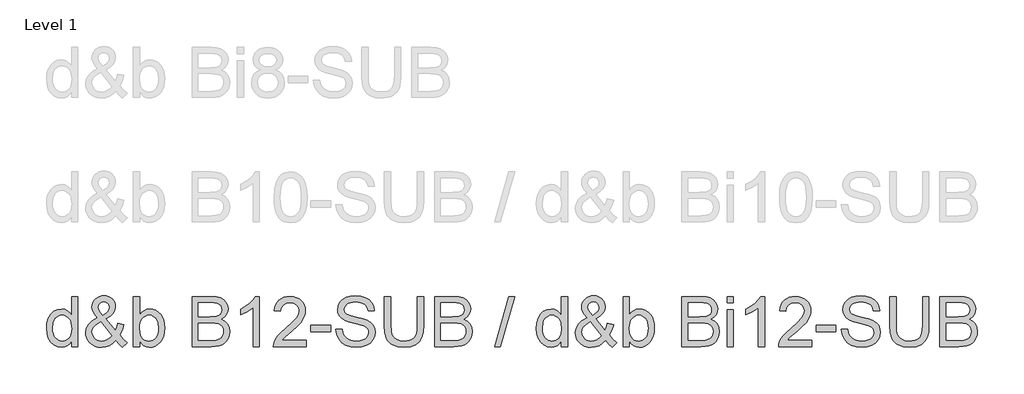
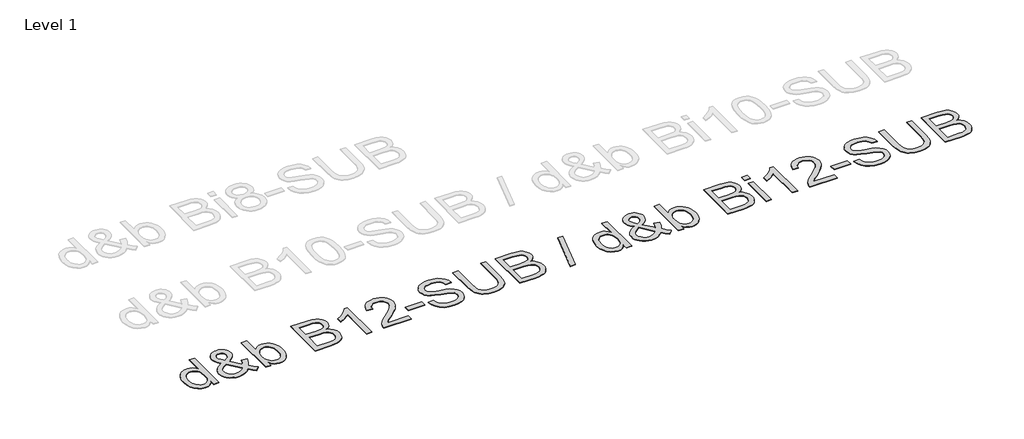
# One storey, part 3 of 55: 1 proxy.
"""IFC4 building model written with IfcOpenShell, lengths in millimetres."""

from ifc_helpers import new_model, si_unit, origin, origin_with_axes, place, context, project, spatial, polyline, outline, extrude, element, save

model = new_model("IFC4")

# Units and contexts
model_context = context("Model", 3, world=origin())
ifc_project = project(units=[si_unit("LENGTHUNIT", "METRE", prefix="MILLI")], contexts=[model_context])

# Site, building, storey
site = spatial("IfcSite", under=ifc_project)
building = spatial("IfcBuilding", under=site)
storey = spatial("IfcBuildingStorey", under=building, Name="Level 1", Elevation=0.0)

# Proxy
placement = place(None, origin())
element("IfcBuildingElementProxy", 1, Name="400mm Arial", ObjectType="400mm Arial", at=placement, inside=storey, context=model_context, shape_type="SweptSolid", body=[
    extrude(outline(polyline([(-20879.8211974, -38148.6945164), (-20879.8211974, -38101.3113154), (-20894.8491769, -38124.7883181), (-20913.0532043, -38141.5576057), (-20934.4332796, -38151.6191783), (-20958.9894028, -38154.9730358), (-20991.4611202, -38150.1169935), (-21021.1859854, -38135.5488665), (-21046.3491139, -38112.2864616), (-21065.1356211, -38081.3475858), (-21076.8342686, -38043.9830379), (-21080.7338177, -38001.4436165), (-21077.1408369, -37959.4314926), (-21066.3618945, -37921.4905962), (-21048.4092531, -37889.7791682), (-21023.2951755, -37866.4554497), (-20992.9203855, -37852.1080519), (-20959.1856065, -37847.325586), (-20934.6110892, -37850.7468885), (-20912.8815261, -37861.0107962), (-20894.4629008, -37876.7438829), (-20879.8211974, -37896.5727224), (-20879.8211974, -37746.8692758), (-20829.5930424, -37746.8692758), (-20829.5930424, -38148.6945164), (-20879.8211974, -38148.6945164)]), holes=[polyline([(-21030.5056627, -38001.2474128), (-21029.089317, -38025.6042665), (-21024.8402799, -38046.6808392), (-21017.7585515, -38064.4771307), (-21007.8441318, -38078.9931411), (-20983.1469871, -38098.3069458), (-20969.2717046, -38103.135397), (-20954.3786151, -38104.7448807), (-20939.415015, -38103.2089734), (-20925.6225058, -38098.6012514), (-20901.5507606, -38080.1703635), (-20892.0440767, -38066.2613584), (-20885.2535882, -38049.1088603), (-20879.8211974, -38005.0733855), (-20885.3516901, -37956.9298951), (-20892.2648059, -37938.3947739), (-20901.9431681, -37923.5507354), (-20913.6448812, -37912.1770504), (-20926.6280499, -37904.0529896), (-20940.8926743, -37899.1785532), (-20956.4387543, -37897.5537411), (-20971.6261493, -37899.1141738), (-20985.5014319, -37903.7954722), (-20998.064602, -37911.5976362), (-21009.3156597, -37922.5206658), (-21018.586286, -37936.8036843), (-21025.2081619, -37954.6858149), (-21030.5056627, -38001.2474128)])]), origin_with_axes(), (0.0, 0.0, 1.0), 5.0),
    extrude(outline(polyline([(-20523.809528, -38099.0549725), (-20549.3405384, -38123.5191252), (-20577.0788409, -38140.99352), (-20607.0734862, -38151.4781569), (-20639.3735254, -38154.9730358), (-20668.6814577, -38152.3855991), (-20694.8010793, -38144.623289), (-20717.7323904, -38131.6861055), (-20737.4753908, -38113.5740486), (-20750.308341, -38096.2038871), (-20759.4747341, -38077.8404442), (-20764.9745699, -38058.4837198), (-20766.8078485, -38038.1337141), (-20760.9094739, -38002.9396699), (-20743.2143499, -37971.3263438), (-20713.796053, -37943.3182613), (-20672.7281596, -37918.9399477), (-20694.6416638, -37890.5885086), (-20707.7995765, -37868.1231814), (-20714.3846642, -37848.9442668), (-20716.5796934, -37830.4520651), (-20714.8506481, -37812.8979626), (-20709.6635119, -37796.5333452), (-20701.018285, -37781.3582129), (-20688.9149674, -37767.3725657), (-20674.1935562, -37755.6555241), (-20657.6940487, -37747.2862088), (-20639.4164449, -37742.2646195), (-20619.3607448, -37740.5907564), (-20600.212487, -37742.1910431), (-20582.8913764, -37746.9919032), (-20567.397413, -37754.9933366), (-20553.7305969, -37766.1953433), (-20542.5715097, -37779.6414302), (-20534.6007332, -37794.3751041), (-20529.8182672, -37810.396365), (-20528.2241119, -37827.7052129), (-20532.9452642, -37855.68877), (-20547.108721, -37881.563137), (-20570.7144823, -37905.3283139), (-20603.7625482, -37926.9843007), (-20531.069066, -38017.5323224), (-20518.6837055, -37991.6579554), (-20509.3885538, -37961.9085647), (-20459.1603987, -37972.7978718), (-20474.6114425, -38019.3226815), (-20494.6732739, -38055.4977443), (-20466.1256311, -38088.8033276), (-20434.0463211, -38116.3209009), (-20471.7174374, -38154.9730358), (-20497.3465498, -38131.52669), (-20523.809528, -38099.0549725)]), holes=[polyline([(-20557.4584678, -38062.8553842), (-20647.1235727, -37950.9211558), (-20681.3733865, -37972.7733463), (-20702.305872, -37993.0068561), (-20713.0112381, -38012.3329235), (-20716.5796934, -38031.4627873), (-20711.6991256, -38055.1543878), (-20697.0574222, -38079.7289051), (-20686.2784798, -38090.6733944), (-20673.4639236, -38098.4908868), (-20658.6137537, -38103.1813823), (-20641.7279702, -38104.7448807), (-20619.0051256, -38101.8263502), (-20595.5710425, -38093.0707588), (-20574.1480476, -38079.6798541), (-20557.4584678, -38062.8553842)]), polyline([(-20629.1709314, -37895.2973981), (-20602.9041569, -37878.6323438), (-20587.8700461, -37864.1500559), (-20580.8067117, -37850.0601755), (-20578.452267, -37834.5723435), (-20581.5547385, -37817.0243723), (-20590.862153, -37803.0325938), (-20604.829406, -37793.8723321), (-20621.9113933, -37790.8189115), (-20639.3612626, -37793.8478066), (-20653.6473468, -37802.9344919), (-20663.1754905, -37816.3867102), (-20666.3515384, -37832.5122043), (-20662.0350563, -37850.9063041), (-20648.9875082, -37871.360543), (-20629.1709314, -37895.2973981)])]), origin_with_axes(), (0.0, 0.0, 1.0), 5.0),
    extrude(outline(polyline([(-20333.590011, -38148.6945164), (-20383.8181661, -38148.6945164), (-20383.8181661, -37746.8692758), (-20333.590011, -37746.8692758), (-20333.590011, -37895.8860093), (-20317.0721094, -37874.6408241), (-20298.4204923, -37859.4656918), (-20277.6351595, -37850.3606124), (-20254.7161112, -37847.325586), (-20228.8417442, -37850.0601755), (-20204.3898543, -37858.263944), (-20182.758393, -37871.4218567), (-20165.3453119, -37889.0188788), (-20151.6968898, -37910.883332), (-20141.3594058, -37936.8435381), (-20134.8478945, -37965.8203766), (-20132.6773907, -37996.734727), (-20134.9245365, -38032.4070178), (-20141.6659741, -38063.7873519), (-20152.9017034, -38090.8757295), (-20168.6317244, -38113.6721505), (-20187.5132678, -38131.7412878), (-20208.2035643, -38144.6478145), (-20230.702614, -38152.3917305), (-20255.0104168, -38154.9730358), (-20278.6836232, -38151.6437038), (-20299.671291, -38141.6557076), (-20317.9734203, -38125.0090473), (-20333.590011, -38101.7037229), (-20333.590011, -38148.6945164)]), holes=[polyline([(-20333.590011, -37999.0891717), (-20330.1564457, -38040.9786682), (-20319.8557498, -38069.3301073), (-20307.6849872, -38084.8240707), (-20293.5399244, -38095.8911874), (-20277.4205617, -38102.5314574), (-20259.3268989, -38104.7448807), (-20244.3050508, -38103.1139372), (-20230.3377977, -38098.2211067), (-20217.4251396, -38090.0663891), (-20205.5670767, -38078.6497845), (-20195.6526569, -38064.0019498), (-20188.5709285, -38046.1535416), (-20184.3218914, -38025.1045601), (-20182.9055458, -38000.8550053), (-20188.3379366, -37954.8942814), (-20195.1284251, -37937.1010555), (-20204.6351089, -37922.7659205), (-20216.0670419, -37911.735592), (-20228.6332778, -37903.8567859), (-20242.3338164, -37899.1295023), (-20257.1686579, -37897.5537411), (-20272.190506, -37899.1846846), (-20286.1577591, -37904.0775151), (-20299.0704171, -37912.2322327), (-20310.9284801, -37923.6488372), (-20320.8428999, -37938.1495192), (-20327.9246283, -37955.556469), (-20332.1736653, -37975.8696865), (-20333.590011, -37999.0891717)])]), origin_with_axes(), (0.0, 0.0, 1.0), 5.0),
    extrude(outline(polyline([(-19912.9292122, -38148.6945164), (-19912.9292122, -37746.8692758), (-19759.5959966, -37746.8692758), (-19717.4244573, -37749.8245945), (-19684.4990187, -37758.6905506), (-19659.2623138, -37773.6878733), (-19640.1569755, -37795.0372917), (-19628.1272343, -37820.1513693), (-19624.1173206, -37846.4426692), (-19627.4895722, -37870.6370417), (-19637.606327, -37893.3844118), (-19654.5411616, -37913.2868277), (-19678.3676521, -37928.946338), (-19649.9058484, -37943.8087706), (-19628.875261, -37966.4212506), (-19615.8890266, -37995.2877244), (-19611.5602818, -38028.9121388), (-19614.5156005, -38056.9324841), (-19623.3815566, -38082.9172157), (-19636.6130457, -38105.0146609), (-19652.6649634, -38121.3731469), (-19672.3221247, -38133.2189472), (-19696.3693444, -38141.7783349), (-19725.5914376, -38146.965471), (-19760.773219, -38148.6945164), (-19912.9292122, -38148.6945164)]), holes=[polyline([(-19862.7010572, -38098.4663614), (-19759.6940985, -38098.4663614), (-19722.4153897, -38096.504324), (-19690.87564, -38085.5659661), (-19679.2996198, -38076.1359242), (-19669.9799426, -38063.2477917), (-19663.8363133, -38047.4779168), (-19661.7884369, -38029.4026481), (-19664.1919326, -38008.4088489), (-19671.4024197, -37990.3581057), (-19683.9962466, -37976.2436998), (-19702.5497619, -37967.0589127), (-19728.8287991, -37962.0189293), (-19764.5991918, -37960.3389349), (-19862.7010572, -37960.3389349), (-19862.7010572, -38098.4663614)]), polyline([(-19862.7010572, -37910.1107798), (-19770.975813, -37910.1107798), (-19717.4121945, -37905.7942977), (-19698.6624755, -37898.3508187), (-19685.1857318, -37887.2039943), (-19677.0555397, -37872.5255026), (-19674.3454756, -37854.4870222), (-19676.8715987, -37836.9758392), (-19684.4499678, -37821.7209991), (-19696.7372264, -37809.8138852), (-19713.3900181, -37802.3458807), (-19738.945554, -37798.4095434), (-19777.9410455, -37797.0974309), (-19862.7010572, -37797.0974309), (-19862.7010572, -37910.1107798)])]), origin_with_axes(), (0.0, 0.0, 1.0), 5.0),
    extrude(outline(polyline([(-19372.9765452, -38148.6945164), (-19423.2047003, -38148.6945164), (-19423.2047003, -37835.5533621), (-19444.173974, -37852.5127221), (-19470.784105, -37869.4475566), (-19523.6610104, -37894.8068888), (-19523.6610104, -37847.325586), (-19484.2117978, -37825.8658029), (-19450.0355604, -37800.3347925), (-19423.0943357, -37773.1851012), (-19405.3501608, -37746.8692758), (-19372.9765452, -37746.8692758), (-19372.9765452, -38148.6945164)])), origin_with_axes(), (0.0, 0.0, 1.0), 5.0),
    extrude(outline(polyline([(-18996.2653821, -38098.4663614), (-18996.2653821, -38148.6945164), (-19259.9631963, -38148.6945164), (-19258.8595503, -38131.0116552), (-19254.5675937, -38114.0645579), (-19242.1699704, -38087.0007058), (-19224.0088626, -38060.7461941), (-19197.7543509, -38033.2654091), (-19161.076516, -38002.522737), (-19106.8874981, -37954.3792466), (-19074.4035179, -37918.8418458), (-19058.1799219, -37889.9998974), (-19052.7720566, -37861.9427639), (-19057.8856163, -37836.7918982), (-19073.2262955, -37815.8839381), (-19096.8075314, -37801.7940577), (-19126.6427612, -37797.0974309), (-19157.9740445, -37801.6836931), (-19182.3155698, -37815.4424797), (-19198.024131, -37837.2946702), (-19203.4565218, -37866.1611441), (-19253.6846769, -37859.8826247), (-19249.3651291, -37833.9530755), (-19241.5077828, -37811.2976759), (-19230.112638, -37791.9164261), (-19215.1796947, -37775.8093261), (-19197.0523094, -37763.1480541), (-19176.0738386, -37754.1042884), (-19152.2442824, -37748.678029), (-19125.5636407, -37746.8692758), (-19098.6438757, -37748.8803641), (-19074.6855608, -37754.9136288), (-19053.6886959, -37764.96907), (-19035.6532811, -37779.0466877), (-19021.1679275, -37796.1041495), (-19010.8212464, -37815.0991232), (-19004.6132377, -37836.0316087), (-19002.5439015, -37858.9016061), (-19004.7757189, -37882.9243004), (-19011.4711713, -37906.5300617), (-19023.3537597, -37930.5404933), (-19041.1469855, -37955.7771982), (-19069.5106874, -37985.9067336), (-19113.1047038, -38024.5956567), (-19170.8867025, -38072.9108254), (-19193.5482334, -38098.4663614), (-18996.2653821, -38098.4663614)])), origin_with_axes(), (0.0, 0.0, 1.0), 5.0),
    extrude(outline(polyline([(-18958.5942658, -38029.4026481), (-18958.5942658, -37979.174493), (-18801.6312812, -37979.174493), (-18801.6312812, -38029.4026481), (-18958.5942658, -38029.4026481)])), origin_with_axes(), (0.0, 0.0, 1.0), 5.0),
    extrude(outline(polyline([(-18757.6816455, -38010.56709), (-18707.4534904, -38010.56709), (-18701.6900059, -38038.4402825), (-18691.2666827, -38060.844296), (-18675.0062985, -38078.6252591), (-18651.7316309, -38092.6293004), (-18623.2820899, -38101.7159856), (-18591.4970856, -38104.7448807), (-18563.5135285, -38102.4517496), (-18539.0125876, -38095.5723563), (-18519.1592226, -38084.6830493), (-18505.1183931, -38070.3601769), (-18496.7674718, -38053.9158517), (-18493.9838314, -38036.6621862), (-18496.068496, -38019.849979), (-18502.3224899, -38005.3186402), (-18515.0266815, -37992.9210169), (-18536.4619391, -37982.5099565), (-18609.5968797, -37963.3310418), (-18657.6054801, -37950.639113), (-18688.3236267, -37938.5603208), (-18713.3273396, -37921.6622745), (-18731.0469891, -37901.1835101), (-18741.6052023, -37877.565486), (-18745.1246067, -37851.2496606), (-18740.7713365, -37821.8313637), (-18727.7115256, -37794.3996296), (-18706.2885308, -37771.1494875), (-18676.8457084, -37754.2759667), (-18641.5045114, -37744.012059), (-18602.3863926, -37740.5907564), (-18560.0063868, -37744.1714745), (-18522.9238817, -37754.9136288), (-18492.4632525, -37772.59649), (-18469.9488744, -37796.999329), (-18455.6995784, -37826.6015669), (-18450.0341957, -37859.8826247), (-18500.2623508, -37859.8826247), (-18509.4839261, -37829.9125049), (-18517.8471101, -37818.0544419), (-18528.7118917, -37808.2810436), (-18558.755588, -37795.1844445), (-18600.4243553, -37790.8189115), (-18643.0741413, -37795.1353936), (-18659.377445, -37800.5309962), (-18672.3330226, -37808.0848398), (-18689.2555944, -37827.1411272), (-18694.8964517, -37849.7781326), (-18690.8988007, -37869.0796746), (-18678.9058476, -37884.6042948), (-18650.5544085, -37898.4857088), (-18596.8926882, -37912.6614283), (-18541.5141852, -37926.1259093), (-18508.0123981, -37937.8736077), (-18479.3789162, -37956.0960292), (-18459.4029238, -37978.5858819), (-18447.6674882, -38005.097911), (-18443.7556763, -38035.3868619), (-18448.2560994, -38066.3502632), (-18461.7573686, -38095.4742545), (-18483.707661, -38120.5392811), (-18513.5551535, -38139.3257883), (-18549.4481735, -38151.0612239), (-18589.5350483, -38154.9730358), (-18638.7453965, -38150.7546556), (-18679.2492041, -38138.099515), (-18711.5124551, -38116.958563), (-18736.0011333, -38087.2827487), (-18751.7219572, -38051.1322113), (-18757.6816455, -38010.56709)])), origin_with_axes(), (0.0, 0.0, 1.0), 5.0),
    extrude(outline(polyline([(-18104.7156295, -37746.8692758), (-18054.4874745, -37746.8692758), (-18054.4874745, -37978.6839837), (-18057.8965143, -38032.9711035), (-18068.1236338, -38074.7747609), (-18076.3090082, -38091.7279895), (-18087.228972, -38107.0257491), (-18117.2726683, -38132.6548614), (-18136.4147948, -38142.4190627), (-18158.328299, -38149.3934922), (-18210.4694404, -38154.9730358), (-18261.4701477, -38150.1169935), (-18302.2437355, -38135.5488665), (-18318.7984253, -38124.7484642), (-18332.8024666, -38111.7714268), (-18344.2558593, -38096.6177543), (-18353.1586036, -38079.2874467), (-18364.5997337, -38035.7179557), (-18368.4134437, -37978.6839837), (-18368.4134437, -37746.8692758), (-18318.1852886, -37746.8692758), (-18318.1852886, -37976.9181501), (-18315.7082165, -38022.057271), (-18308.2770002, -38053.4866561), (-18294.8125192, -38075.2530075), (-18274.2356529, -38091.403027), (-18247.4047927, -38101.4094173), (-18215.17833, -38104.7448807), (-18187.4952098, -38103.0955431), (-18164.0917836, -38098.1475303), (-18144.9680512, -38089.9008422), (-18130.1240127, -38078.3554789), (-18119.0078451, -38062.1196202), (-18111.0677253, -38039.8014459), (-18106.3036535, -38011.4009558), (-18104.7156295, -37976.9181501), (-18104.7156295, -37746.8692758)])), origin_with_axes(), (0.0, 0.0, 1.0), 5.0),
    extrude(outline(polyline([(-17966.5882031, -38148.6945164), (-17966.5882031, -37746.8692758), (-17813.2549875, -37746.8692758), (-17771.0834481, -37749.8245945), (-17738.1580096, -37758.6905506), (-17712.9213047, -37773.6878733), (-17693.8159664, -37795.0372917), (-17681.7862252, -37820.1513693), (-17677.7763114, -37846.4426692), (-17681.148563, -37870.6370417), (-17691.2653179, -37893.3844118), (-17708.2001524, -37913.2868277), (-17732.026643, -37928.946338), (-17703.5648393, -37943.8087706), (-17682.5342519, -37966.4212506), (-17669.5480175, -37995.2877244), (-17665.2192726, -38028.9121388), (-17668.1745913, -38056.9324841), (-17677.0405474, -38082.9172157), (-17690.2720365, -38105.0146609), (-17706.3239542, -38121.3731469), (-17725.9811155, -38133.2189472), (-17750.0283353, -38141.7783349), (-17779.2504284, -38146.965471), (-17814.4322099, -38148.6945164), (-17966.5882031, -38148.6945164)]), holes=[polyline([(-17916.360048, -38098.4663614), (-17813.3530894, -38098.4663614), (-17776.0743805, -38096.504324), (-17744.5346308, -38085.5659661), (-17732.9586107, -38076.1359242), (-17723.6389335, -38063.2477917), (-17717.4953042, -38047.4779168), (-17715.4474277, -38029.4026481), (-17717.8509234, -38008.4088489), (-17725.0614105, -37990.3581057), (-17737.6552375, -37976.2436998), (-17756.2087528, -37967.0589127), (-17782.48779, -37962.0189293), (-17818.2581826, -37960.3389349), (-17916.360048, -37960.3389349), (-17916.360048, -38098.4663614)]), polyline([(-17916.360048, -37910.1107798), (-17824.6348039, -37910.1107798), (-17771.0711854, -37905.7942977), (-17752.3214664, -37898.3508187), (-17738.8447226, -37887.2039943), (-17730.7145305, -37872.5255026), (-17728.0044665, -37854.4870222), (-17730.5305895, -37836.9758392), (-17738.1089586, -37821.7209991), (-17750.3962173, -37809.8138852), (-17767.0490089, -37802.3458807), (-17792.6045448, -37798.4095434), (-17831.6000363, -37797.0974309), (-17916.360048, -37797.0974309), (-17916.360048, -37910.1107798)])]), origin_with_axes(), (0.0, 0.0, 1.0), 5.0),
    extrude(outline(polyline([(-17483.1422105, -38148.6945164), (-17370.1288616, -37746.8692758), (-17324.609596, -37746.8692758), (-17437.7210468, -38148.6945164), (-17483.1422105, -38148.6945164)])), origin_with_axes(), (0.0, 0.0, 1.0), 5.0),
    extrude(outline(polyline([(-16949.4680628, -38148.6945164), (-16949.4680628, -38101.3113154), (-16964.4960423, -38124.7883181), (-16982.7000697, -38141.5576057), (-17004.080145, -38151.6191783), (-17028.6362682, -38154.9730358), (-17061.1079856, -38150.1169935), (-17090.8328508, -38135.5488665), (-17115.9959793, -38112.2864616), (-17134.7824865, -38081.3475858), (-17146.481134, -38043.9830379), (-17150.3806831, -38001.4436165), (-17146.7877023, -37959.4314926), (-17136.0087598, -37921.4905962), (-17118.0561185, -37889.7791682), (-17092.9420409, -37866.4554497), (-17062.5672509, -37852.1080519), (-17028.8324719, -37847.325586), (-17004.2579546, -37850.7468885), (-16982.5283915, -37861.0107962), (-16964.1097662, -37876.7438829), (-16949.4680628, -37896.5727224), (-16949.4680628, -37746.8692758), (-16899.2399078, -37746.8692758), (-16899.2399078, -38148.6945164), (-16949.4680628, -38148.6945164)]), holes=[polyline([(-17100.152528, -38001.2474128), (-17098.7361824, -38025.6042665), (-17094.4871453, -38046.6808392), (-17087.4054169, -38064.4771307), (-17077.4909971, -38078.9931411), (-17052.7938525, -38098.3069458), (-17038.91857, -38103.135397), (-17024.0254805, -38104.7448807), (-17009.0618804, -38103.2089734), (-16995.2693712, -38098.6012514), (-16971.197626, -38080.1703635), (-16961.6909421, -38066.2613584), (-16954.9004536, -38049.1088603), (-16949.4680628, -38005.0733855), (-16954.9985555, -37956.9298951), (-16961.9116713, -37938.3947739), (-16971.5900335, -37923.5507354), (-16983.2917466, -37912.1770504), (-16996.2749153, -37904.0529896), (-17010.5395397, -37899.1785532), (-17026.0856197, -37897.5537411), (-17041.2730147, -37899.1141738), (-17055.1482973, -37903.7954722), (-17067.7114674, -37911.5976362), (-17078.9625251, -37922.5206658), (-17088.2331514, -37936.8036843), (-17094.8550273, -37954.6858149), (-17100.152528, -38001.2474128)])]), origin_with_axes(), (0.0, 0.0, 1.0), 5.0),
    extrude(outline(polyline([(-16593.4563934, -38099.0549725), (-16618.9874038, -38123.5191252), (-16646.7257063, -38140.99352), (-16676.7203516, -38151.4781569), (-16709.0203908, -38154.9730358), (-16738.3283231, -38152.3855991), (-16764.4479447, -38144.623289), (-16787.3792558, -38131.6861055), (-16807.1222562, -38113.5740486), (-16819.9552064, -38096.2038871), (-16829.1215995, -38077.8404442), (-16834.6214353, -38058.4837198), (-16836.4547139, -38038.1337141), (-16830.5563393, -38002.9396699), (-16812.8612153, -37971.3263438), (-16783.4429184, -37943.3182613), (-16742.375025, -37918.9399477), (-16764.2885292, -37890.5885086), (-16777.4464419, -37868.1231814), (-16784.0315296, -37848.9442668), (-16786.2265588, -37830.4520651), (-16784.4975135, -37812.8979626), (-16779.3103773, -37796.5333452), (-16770.6651504, -37781.3582129), (-16758.5618328, -37767.3725657), (-16743.8404216, -37755.6555241), (-16727.3409141, -37747.2862088), (-16709.0633103, -37742.2646195), (-16689.0076102, -37740.5907564), (-16669.8593524, -37742.1910431), (-16652.5382418, -37746.9919032), (-16637.0442784, -37754.9933366), (-16623.3774623, -37766.1953433), (-16612.2183751, -37779.6414302), (-16604.2475986, -37794.3751041), (-16599.4651326, -37810.396365), (-16597.8709773, -37827.7052129), (-16602.5921296, -37855.68877), (-16616.7555864, -37881.563137), (-16640.3613477, -37905.3283139), (-16673.4094136, -37926.9843007), (-16600.7159314, -38017.5323224), (-16588.3305709, -37991.6579554), (-16579.0354191, -37961.9085647), (-16528.8072641, -37972.7978718), (-16544.2583079, -38019.3226815), (-16564.3201393, -38055.4977443), (-16535.7724965, -38088.8033276), (-16503.6931865, -38116.3209009), (-16541.3643028, -38154.9730358), (-16566.9934152, -38131.52669), (-16593.4563934, -38099.0549725)]), holes=[polyline([(-16627.1053332, -38062.8553842), (-16716.7704381, -37950.9211558), (-16751.0202519, -37972.7733463), (-16771.9527374, -37993.0068561), (-16782.6581035, -38012.3329235), (-16786.2265588, -38031.4627873), (-16781.345991, -38055.1543878), (-16766.7042876, -38079.7289051), (-16755.9253452, -38090.6733944), (-16743.110789, -38098.4908868), (-16728.2606191, -38103.1813823), (-16711.3748355, -38104.7448807), (-16688.651991, -38101.8263502), (-16665.2179079, -38093.0707588), (-16643.794913, -38079.6798541), (-16627.1053332, -38062.8553842)]), polyline([(-16698.8177968, -37895.2973981), (-16672.5510223, -37878.6323438), (-16657.5169115, -37864.1500559), (-16650.4535771, -37850.0601755), (-16648.0991324, -37834.5723435), (-16651.2016039, -37817.0243723), (-16660.5090183, -37803.0325938), (-16674.4762714, -37793.8723321), (-16691.5582587, -37790.8189115), (-16709.008128, -37793.8478066), (-16723.2942122, -37802.9344919), (-16732.8223559, -37816.3867102), (-16735.9984038, -37832.5122043), (-16731.6819217, -37850.9063041), (-16718.6343736, -37871.360543), (-16698.8177968, -37895.2973981)])]), origin_with_axes(), (0.0, 0.0, 1.0), 5.0),
    extrude(outline(polyline([(-16403.2368764, -38148.6945164), (-16453.4650315, -38148.6945164), (-16453.4650315, -37746.8692758), (-16403.2368764, -37746.8692758), (-16403.2368764, -37895.8860093), (-16386.7189748, -37874.6408241), (-16368.0673576, -37859.4656918), (-16347.2820249, -37850.3606124), (-16324.3629766, -37847.325586), (-16298.4886096, -37850.0601755), (-16274.0367197, -37858.263944), (-16252.4052584, -37871.4218567), (-16234.9921773, -37889.0188788), (-16221.3437552, -37910.883332), (-16211.0062712, -37936.8435381), (-16204.4947599, -37965.8203766), (-16202.3242561, -37996.734727), (-16204.5714019, -38032.4070178), (-16211.3128395, -38063.7873519), (-16222.5485688, -38090.8757295), (-16238.2785897, -38113.6721505), (-16257.1601332, -38131.7412878), (-16277.8504297, -38144.6478145), (-16300.3494794, -38152.3917305), (-16324.6572822, -38154.9730358), (-16348.3304886, -38151.6437038), (-16369.3181564, -38141.6557076), (-16387.6202857, -38125.0090473), (-16403.2368764, -38101.7037229), (-16403.2368764, -38148.6945164)]), holes=[polyline([(-16403.2368764, -37999.0891717), (-16399.8033111, -38040.9786682), (-16389.5026152, -38069.3301073), (-16377.3318526, -38084.8240707), (-16363.1867898, -38095.8911874), (-16347.0674271, -38102.5314574), (-16328.9737643, -38104.7448807), (-16313.9519162, -38103.1139372), (-16299.9846631, -38098.2211067), (-16287.072005, -38090.0663891), (-16275.2139421, -38078.6497845), (-16265.2995223, -38064.0019498), (-16258.2177939, -38046.1535416), (-16253.9687568, -38025.1045601), (-16252.5524112, -38000.8550053), (-16257.984802, -37954.8942814), (-16264.7752905, -37937.1010555), (-16274.2819743, -37922.7659205), (-16285.7139073, -37911.735592), (-16298.2801432, -37903.8567859), (-16311.9806818, -37899.1295023), (-16326.8155233, -37897.5537411), (-16341.8373714, -37899.1846846), (-16355.8046245, -37904.0775151), (-16368.7172825, -37912.2322327), (-16380.5753455, -37923.6488372), (-16390.4897653, -37938.1495192), (-16397.5714937, -37955.556469), (-16401.8205307, -37975.8696865), (-16403.2368764, -37999.0891717)])]), origin_with_axes(), (0.0, 0.0, 1.0), 5.0),
    extrude(outline(polyline([(-15982.5760776, -38148.6945164), (-15982.5760776, -37746.8692758), (-15829.242862, -37746.8692758), (-15787.0713227, -37749.8245945), (-15754.1458841, -37758.6905506), (-15728.9091792, -37773.6878733), (-15709.8038409, -37795.0372917), (-15697.7740997, -37820.1513693), (-15693.764186, -37846.4426692), (-15697.1364376, -37870.6370417), (-15707.2531924, -37893.3844118), (-15724.188027, -37913.2868277), (-15748.0145175, -37928.946338), (-15719.5527138, -37943.8087706), (-15698.5221264, -37966.4212506), (-15685.535892, -37995.2877244), (-15681.2071472, -38028.9121388), (-15684.1624659, -38056.9324841), (-15693.028422, -38082.9172157), (-15706.2599111, -38105.0146609), (-15722.3118288, -38121.3731469), (-15741.9689901, -38133.2189472), (-15766.0162098, -38141.7783349), (-15795.238303, -38146.965471), (-15830.4200844, -38148.6945164), (-15982.5760776, -38148.6945164)]), holes=[polyline([(-15932.3479226, -37910.1107798), (-15840.6226784, -37910.1107798), (-15787.0590599, -37905.7942977), (-15768.3093409, -37898.3508187), (-15754.8325972, -37887.2039943), (-15746.7024051, -37872.5255026), (-15743.992341, -37854.4870222), (-15746.5184641, -37836.9758392), (-15754.0968332, -37821.7209991), (-15766.3840918, -37809.8138852), (-15783.0368835, -37802.3458807), (-15808.5924194, -37798.4095434), (-15847.5879109, -37797.0974309), (-15932.3479226, -37797.0974309), (-15932.3479226, -37910.1107798)]), polyline([(-15932.3479226, -38098.4663614), (-15829.3409639, -38098.4663614), (-15792.0622551, -38096.504324), (-15760.5225053, -38085.5659661), (-15748.9464852, -38076.1359242), (-15739.626808, -38063.2477917), (-15733.4831787, -38047.4779168), (-15731.4353023, -38029.4026481), (-15733.838798, -38008.4088489), (-15741.0492851, -37990.3581057), (-15753.643112, -37976.2436998), (-15772.1966273, -37967.0589127), (-15798.4756645, -37962.0189293), (-15834.2460572, -37960.3389349), (-15932.3479226, -37960.3389349), (-15932.3479226, -38098.4663614)])]), origin_with_axes(), (0.0, 0.0, 1.0), 5.0),
    extrude(outline(polyline([(-15618.4219533, -38148.6945164), (-15618.4219533, -37853.6041054), (-15568.1937983, -37853.6041054), (-15568.1937983, -38148.6945164), (-15618.4219533, -38148.6945164)])), origin_with_axes(), (0.0, 0.0, 1.0), 5.0),
    extrude(outline(polyline([(-15618.4219533, -37797.0974309), (-15618.4219533, -37746.8692758), (-15568.1937983, -37746.8692758), (-15568.1937983, -37797.0974309), (-15618.4219533, -37797.0974309)])), origin_with_axes(), (0.0, 0.0, 1.0), 5.0),
    extrude(outline(polyline([(-15317.0530229, -38148.6945164), (-15367.281178, -38148.6945164), (-15367.281178, -37835.5533621), (-15388.2504517, -37852.5127221), (-15414.8605827, -37869.4475566), (-15467.7374881, -37894.8068888), (-15467.7374881, -37847.325586), (-15428.2882755, -37825.8658029), (-15394.1120382, -37800.3347925), (-15367.1708134, -37773.1851012), (-15349.4266385, -37746.8692758), (-15317.0530229, -37746.8692758), (-15317.0530229, -38148.6945164)])), origin_with_axes(), (0.0, 0.0, 1.0), 5.0),
    extrude(outline(polyline([(-14940.3418598, -38098.4663614), (-14940.3418598, -38148.6945164), (-15204.039674, -38148.6945164), (-15202.936028, -38131.0116552), (-15198.6440714, -38114.0645579), (-15186.2464481, -38087.0007058), (-15168.0853403, -38060.7461941), (-15141.8308286, -38033.2654091), (-15105.1529937, -38002.522737), (-15050.9639758, -37954.3792466), (-15018.4799956, -37918.8418458), (-15002.2563996, -37889.9998974), (-14996.8485343, -37861.9427639), (-15001.962094, -37836.7918982), (-15017.3027732, -37815.8839381), (-15040.8840091, -37801.7940577), (-15070.7192389, -37797.0974309), (-15102.0505222, -37801.6836931), (-15126.3920475, -37815.4424797), (-15142.1006087, -37837.2946702), (-15147.5329995, -37866.1611441), (-15197.7611546, -37859.8826247), (-15193.4416068, -37833.9530755), (-15185.5842606, -37811.2976759), (-15174.1891158, -37791.9164261), (-15159.2561724, -37775.8093261), (-15141.1287871, -37763.1480541), (-15120.1503163, -37754.1042884), (-15096.3207601, -37748.678029), (-15069.6401184, -37746.8692758), (-15042.7203534, -37748.8803641), (-15018.7620385, -37754.9136288), (-14997.7651736, -37764.96907), (-14979.7297588, -37779.0466877), (-14965.2444052, -37796.1041495), (-14954.8977241, -37815.0991232), (-14948.6897154, -37836.0316087), (-14946.6203792, -37858.9016061), (-14948.8521967, -37882.9243004), (-14955.547649, -37906.5300617), (-14967.4302374, -37930.5404933), (-14985.2234632, -37955.7771982), (-15013.5871651, -37985.9067336), (-15057.1811815, -38024.5956567), (-15114.9631802, -38072.9108254), (-15137.6247111, -38098.4663614), (-14940.3418598, -38098.4663614)])), origin_with_axes(), (0.0, 0.0, 1.0), 5.0),
    extrude(outline(polyline([(-14902.6707435, -38029.4026481), (-14902.6707435, -37979.174493), (-14745.7077589, -37979.174493), (-14745.7077589, -38029.4026481), (-14902.6707435, -38029.4026481)])), origin_with_axes(), (0.0, 0.0, 1.0), 5.0),
    extrude(outline(polyline([(-14701.7581232, -38010.56709), (-14651.5299682, -38010.56709), (-14645.7664836, -38038.4402825), (-14635.3431604, -38060.844296), (-14619.0827762, -38078.6252591), (-14595.8081086, -38092.6293004), (-14567.3585677, -38101.7159856), (-14535.5735633, -38104.7448807), (-14507.5900062, -38102.4517496), (-14483.0890653, -38095.5723563), (-14463.2357003, -38084.6830493), (-14449.1948708, -38070.3601769), (-14440.8439495, -38053.9158517), (-14438.0603091, -38036.6621862), (-14440.1449737, -38019.849979), (-14446.3989676, -38005.3186402), (-14459.1031592, -37992.9210169), (-14480.5384168, -37982.5099565), (-14553.6733574, -37963.3310418), (-14601.6819578, -37950.639113), (-14632.4001044, -37938.5603208), (-14657.4038173, -37921.6622745), (-14675.1234668, -37901.1835101), (-14685.68168, -37877.565486), (-14689.2010845, -37851.2496606), (-14684.8478142, -37821.8313637), (-14671.7880034, -37794.3996296), (-14650.3650085, -37771.1494875), (-14620.9221862, -37754.2759667), (-14585.5809892, -37744.012059), (-14546.4628703, -37740.5907564), (-14504.0828645, -37744.1714745), (-14467.0003594, -37754.9136288), (-14436.5397302, -37772.59649), (-14414.0253521, -37796.999329), (-14399.7760561, -37826.6015669), (-14394.1106734, -37859.8826247), (-14444.3388285, -37859.8826247), (-14453.5604038, -37829.9125049), (-14461.9235878, -37818.0544419), (-14472.7883694, -37808.2810436), (-14502.8320657, -37795.1844445), (-14544.500833, -37790.8189115), (-14587.150619, -37795.1353936), (-14603.4539228, -37800.5309962), (-14616.4095003, -37808.0848398), (-14633.3320721, -37827.1411272), (-14638.9729294, -37849.7781326), (-14634.9752784, -37869.0796746), (-14622.9823253, -37884.6042948), (-14594.6308862, -37898.4857088), (-14540.9691659, -37912.6614283), (-14485.5906629, -37926.1259093), (-14452.0888758, -37937.8736077), (-14423.4553939, -37956.0960292), (-14403.4794015, -37978.5858819), (-14391.7439659, -38005.097911), (-14387.832154, -38035.3868619), (-14392.3325771, -38066.3502632), (-14405.8338463, -38095.4742545), (-14427.7841387, -38120.5392811), (-14457.6316312, -38139.3257883), (-14493.5246512, -38151.0612239), (-14533.611526, -38154.9730358), (-14582.8218742, -38150.7546556), (-14623.3256819, -38138.099515), (-14655.5889328, -38116.958563), (-14680.077611, -38087.2827487), (-14695.7984349, -38051.1322113), (-14701.7581232, -38010.56709)])), origin_with_axes(), (0.0, 0.0, 1.0), 5.0),
    extrude(outline(polyline([(-14048.7921073, -37746.8692758), (-13998.5639522, -37746.8692758), (-13998.5639522, -37978.6839837), (-14001.972992, -38032.9711035), (-14012.2001115, -38074.7747609), (-14020.3854859, -38091.7279895), (-14031.3054498, -38107.0257491), (-14061.349146, -38132.6548614), (-14080.4912725, -38142.4190627), (-14102.4047767, -38149.3934922), (-14154.5459181, -38154.9730358), (-14205.5466254, -38150.1169935), (-14246.3202132, -38135.5488665), (-14262.874903, -38124.7484642), (-14276.8789443, -38111.7714268), (-14288.332337, -38096.6177543), (-14297.2350813, -38079.2874467), (-14308.6762114, -38035.7179557), (-14312.4899214, -37978.6839837), (-14312.4899214, -37746.8692758), (-14262.2617663, -37746.8692758), (-14262.2617663, -37976.9181501), (-14259.7846942, -38022.057271), (-14252.3534779, -38053.4866561), (-14238.8889969, -38075.2530075), (-14218.3121306, -38091.403027), (-14191.4812705, -38101.4094173), (-14159.2548077, -38104.7448807), (-14131.5716875, -38103.0955431), (-14108.1682613, -38098.1475303), (-14089.0445289, -38089.9008422), (-14074.2004904, -38078.3554789), (-14063.0843228, -38062.1196202), (-14055.144203, -38039.8014459), (-14050.3801312, -38011.4009558), (-14048.7921073, -37976.9181501), (-14048.7921073, -37746.8692758)])), origin_with_axes(), (0.0, 0.0, 1.0), 5.0),
    extrude(outline(polyline([(-13910.6646808, -38148.6945164), (-13910.6646808, -37746.8692758), (-13757.3314652, -37746.8692758), (-13715.1599258, -37749.8245945), (-13682.2344873, -37758.6905506), (-13656.9977824, -37773.6878733), (-13637.8924441, -37795.0372917), (-13625.8627029, -37820.1513693), (-13621.8527891, -37846.4426692), (-13625.2250407, -37870.6370417), (-13635.3417956, -37893.3844118), (-13652.2766301, -37913.2868277), (-13676.1031207, -37928.946338), (-13647.641317, -37943.8087706), (-13626.6107296, -37966.4212506), (-13613.6244952, -37995.2877244), (-13609.2957504, -38028.9121388), (-13612.251069, -38056.9324841), (-13621.1170251, -38082.9172157), (-13634.3485142, -38105.0146609), (-13650.4004319, -38121.3731469), (-13670.0575932, -38133.2189472), (-13694.104813, -38141.7783349), (-13723.3269061, -38146.965471), (-13758.5086876, -38148.6945164), (-13910.6646808, -38148.6945164)]), holes=[polyline([(-13860.4365257, -38098.4663614), (-13757.4295671, -38098.4663614), (-13720.1508582, -38096.504324), (-13688.6111085, -38085.5659661), (-13677.0350884, -38076.1359242), (-13667.7154112, -38063.2477917), (-13661.5717819, -38047.4779168), (-13659.5239054, -38029.4026481), (-13661.9274011, -38008.4088489), (-13669.1378882, -37990.3581057), (-13681.7317152, -37976.2436998), (-13700.2852305, -37967.0589127), (-13726.5642677, -37962.0189293), (-13762.3346603, -37960.3389349), (-13860.4365257, -37960.3389349), (-13860.4365257, -38098.4663614)]), polyline([(-13860.4365257, -37910.1107798), (-13768.7112816, -37910.1107798), (-13715.1476631, -37905.7942977), (-13696.3979441, -37898.3508187), (-13682.9212003, -37887.2039943), (-13674.7910082, -37872.5255026), (-13672.0809442, -37854.4870222), (-13674.6070672, -37836.9758392), (-13682.1854363, -37821.7209991), (-13694.472695, -37809.8138852), (-13711.1254866, -37802.3458807), (-13736.6810225, -37798.4095434), (-13775.676514, -37797.0974309), (-13860.4365257, -37797.0974309), (-13860.4365257, -37910.1107798)])]), origin_with_axes(), (0.0, 0.0, 1.0), 5.0),
])

save(model, "model.ifc")
